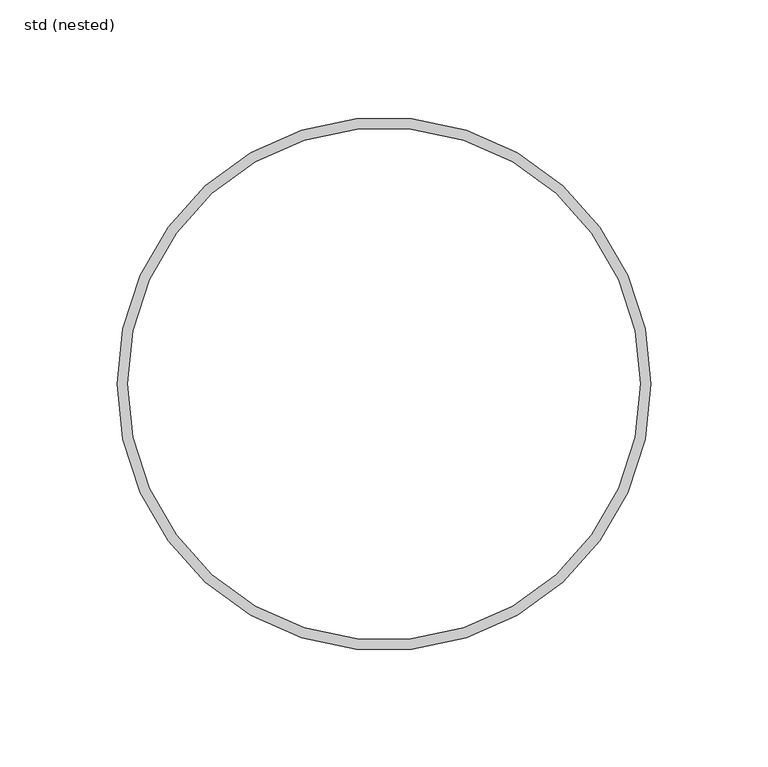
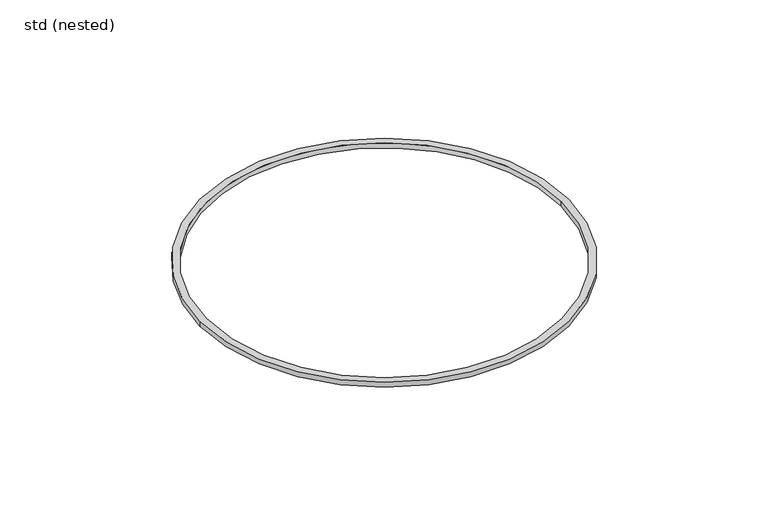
"""IFC4 building model written with IfcOpenShell, lengths in millimetres: pipe fitting geometry, ZZZ_do not use_PIF_GEN_WPB_GM-X (compound) pipe seal_ACO : std (nested)."""

from ifc_helpers import new_model, si_unit, point, frame, origin, origin_2d, place, context, project, spatial, circle_curve, trimmed, segment, composite_curve, outline, extrude, source, transform, mapped, element, save


def std_nested_0b312e5a(model_context):
    return source(origin(), model_context, "Body", "SweptSolid", [
        extrude(outline(composite_curve([segment(trimmed(circle_curve(origin_2d(), 114.0), [point((114.0, 0.0))], [point((-114.0, 0.0))], False, "CARTESIAN"), True, "CONTINUOUS"), segment(trimmed(circle_curve(origin_2d(), 114.0), [point((-114.0, 0.0))], [point((114.0, 0.0))], False, "CARTESIAN"), True, "CONTINUOUS")], self_intersect=False), holes=[composite_curve([segment(trimmed(circle_curve(origin_2d(), 109.5), [point((109.5, 0.0))], [point((-109.5, 0.0))], True, "CARTESIAN"), True, "CONTINUOUS"), segment(trimmed(circle_curve(origin_2d(), 109.5), [point((-109.5, 0.0))], [point((109.5, 0.0))], True, "CARTESIAN"), True, "CONTINUOUS")], self_intersect=False)]), frame((0.0, 0.0, -123.2), z_axis=(0.0, 0.0, 1.0), x_axis=(1.0, 0.0, 0.0)), (0.0, 0.0, 1.0), 3.2),
    ])


if __name__ == "__main__":
    model = new_model("IFC4")
    model_context = context("Model", 3, world=origin())
    ifc_project = project(units=[si_unit("LENGTHUNIT", "METRE", prefix="MILLI")], contexts=[model_context])
    site = spatial("IfcSite", under=ifc_project)
    building = spatial("IfcBuilding", under=site)
    placement = place(None, origin())
    std_nested_shape = std_nested_0b312e5a(model_context)
    element("IfcPipeFitting", 1, ObjectType="ZZZ_do not use_PIF_GEN_WPB_GM-X (compound) pipe seal_ACO : std (nested)", at=placement, inside=building, context=model_context, shape_type="MappedRepresentation", body=[
        mapped(std_nested_shape, transform((0.0, 0.0, 0.0), x_axis=(1.0, 0.0, 0.0), y_axis=(0.0, 1.0, 0.0), z_axis=(0.0, 0.0, 1.0))),
    ])
    save(model, "model.ifc")
